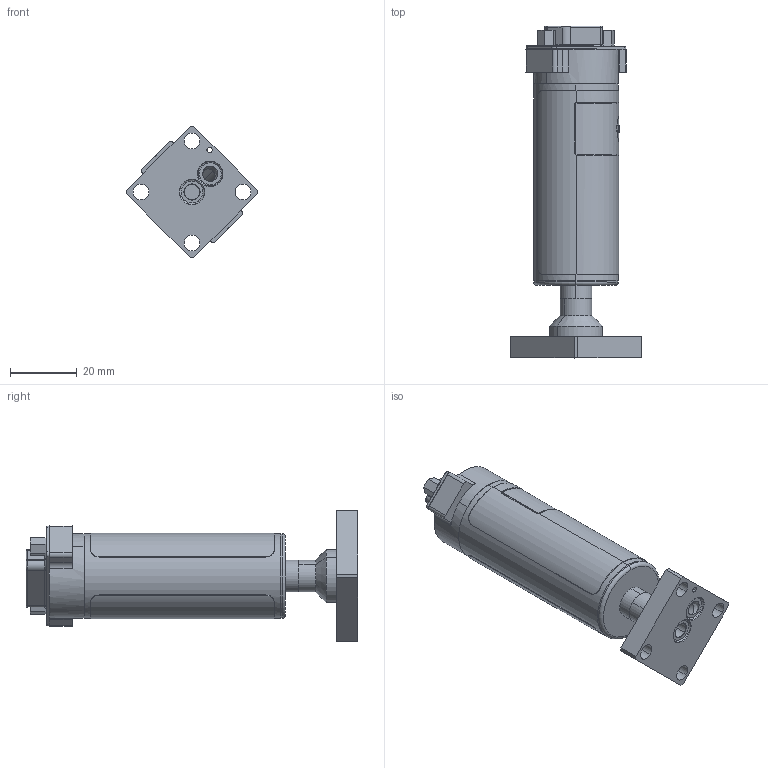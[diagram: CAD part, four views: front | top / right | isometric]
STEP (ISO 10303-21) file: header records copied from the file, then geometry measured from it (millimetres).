
FILE_DESCRIPTION (( 'STEP AP214' ), '1' );
FILE_NAME ('GSD-XXXXXX-D-XXX-CS.STEP', '2025-06-23T14:30:43', ( '' ), ( '' ), 'SwSTEP 2.0', 'SolidWorks 2023', '' );
FILE_SCHEMA (( 'AUTOMOTIVE_DESIGN' ));
Length unit declared in the file: inch
Products named in the file (4): GSx Body_Integrated Connector; GS D; 333127(1.125 CS); GSD-XXXXXX-D-XXX-CS
Assembly tree (3 placements, depth 2):
  GSD-XXXXXX-D-XXX-CS
    GSx Body_Integrated Connector
    GS D
    333127(1.125 CS)
Bounding box: 39.33 x 99.68 x 39.33 mm (x, y, z)
Volume: 18633 mm3; surface area: 17438.8 mm2
Topology: 4 solids, 6 shells, 376 faces, 959 edges, 595 vertices
Faces by surface type: cylinder 149, plane 105, bspline 44, sphere 30, torus 26, cone 22
Entity records: 14789 total; most frequent: CARTESIAN_POINT 6008, DIRECTION 1814, ORIENTED_EDGE 1782, EDGE_CURVE 891, AXIS2_PLACEMENT_3D 735, VERTEX_POINT 565, EDGE_LOOP 436, CIRCLE 397
